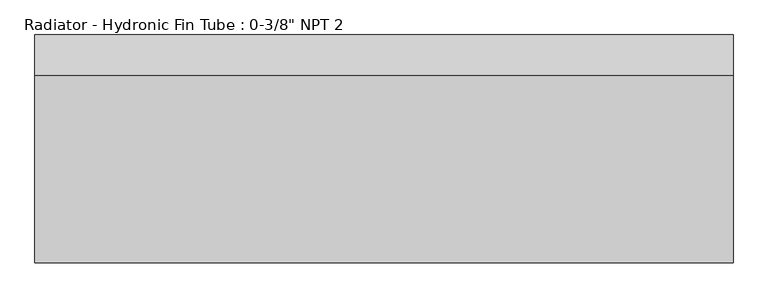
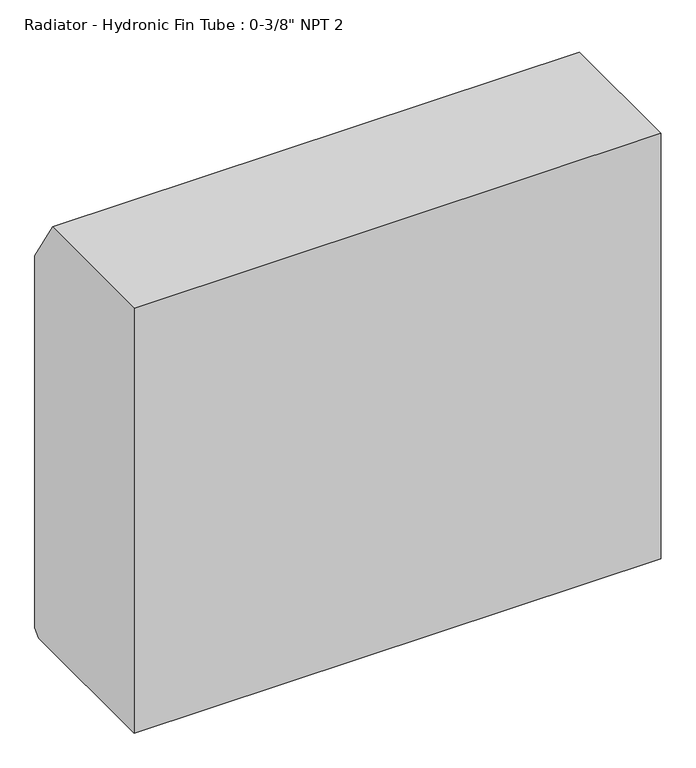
"""IFC4 building model written with IfcOpenShell, lengths in millimetres: proxy geometry."""

from ifc_helpers import new_model, si_unit, frame, origin, place, context, project, spatial, polyline, outline, extrude, source, transform, mapped, element, save


def proxy_726a70f3(model_context):
    return source(origin(), model_context, "Body", "SweptSolid", [
        extrude(outline(polyline([(495.3, 304.8), (177.8, 304.8), (177.8, 1168.4), (449.2625, 1168.4), (508.0, 1074.0279261), (508.0, 318.3779261), (495.3, 304.8)])), frame((-914.4, 0.0, 0.0), z_axis=(1.0, 0.0, 0.0), x_axis=(0.0, 1.0, 0.0)), (0.0, 0.0, 1.0), 1012.7985185),
    ])


if __name__ == "__main__":
    model = new_model("IFC4")
    model_context = context("Model", 3, world=origin())
    ifc_project = project(units=[si_unit("LENGTHUNIT", "METRE", prefix="MILLI")], contexts=[model_context])
    site = spatial("IfcSite", under=ifc_project)
    building = spatial("IfcBuilding", under=site)
    placement = place(None, origin())
    proxy_shape = proxy_726a70f3(model_context)
    element("IfcBuildingElementProxy", 1, Name="Radiator - Hydronic Fin Tube : 0-3/8\" NPT 2", ObjectType="Radiator - Hydronic Fin Tube : 0-3/8\" NPT 2", at=placement, inside=building, context=model_context, shape_type="MappedRepresentation", body=[
        mapped(proxy_shape, transform((0.0, 0.0, 0.0), x_axis=(1.0, 0.0, 0.0), y_axis=(0.0, 1.0, 0.0), z_axis=(0.0, 0.0, 1.0))),
    ])
    save(model, "model.ifc")
